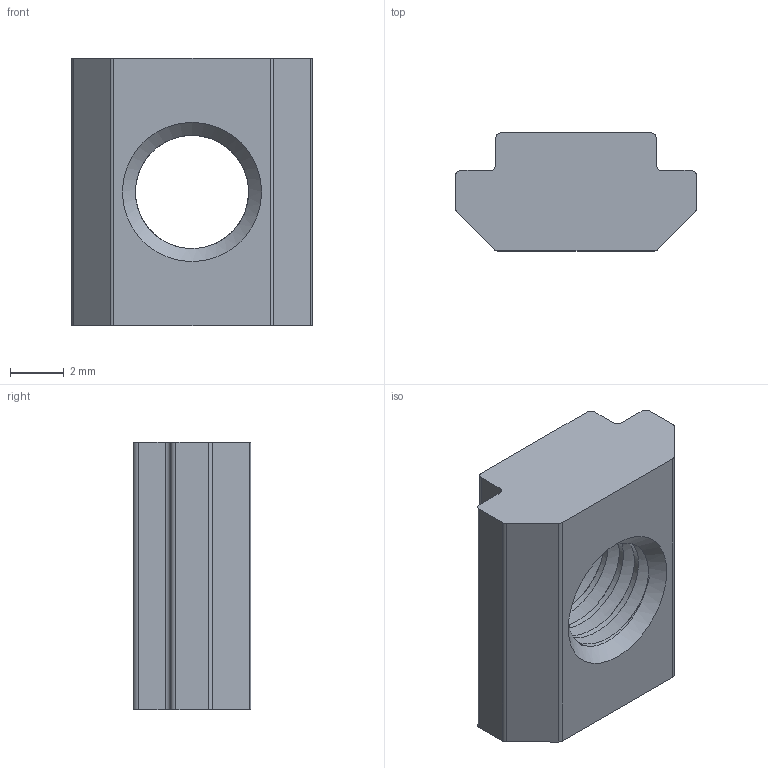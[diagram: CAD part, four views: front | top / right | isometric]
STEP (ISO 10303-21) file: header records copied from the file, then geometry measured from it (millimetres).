
FILE_DESCRIPTION(/* description */ ('STEP AP203'),/* implementation_level */ '2;1');
FILE_NAME(/* name */ '20 Series M5 Slide Nut - TV-Slot - Zinc Plated.step',/* time_stamp */ '2024-08-17T15:07:22+03:00',/* author */ (''),/* organization */ (''),/* preprocessor_version */ 'ST-DEVELOPER v20',/* originating_system */ 'Autodesk Translation Framework v13.14.0.145',/* authorisation */ '');
FILE_SCHEMA (('AUTOMOTIVE_DESIGN { 1 0 10303 214 3 1 1 }'));
Length unit declared in the file: millimetre
Products named in the file (1): 2110.006.002
Bounding box: 9 x 4.4 x 10 mm (x, y, z)
Volume: 257.2 mm3; surface area: 375.9 mm2
Topology: 1 solids, 1 shells, 39 faces, 107 edges, 70 vertices
Faces by surface type: cylinder 21, plane 14, bspline 2, cone 2
Full cylindrical faces by diameter (mm): 4.234 x2, 5.12 x1
Entity records: 2112 total; most frequent: CARTESIAN_POINT 1111, ORIENTED_EDGE 214, DIRECTION 187, EDGE_CURVE 107, VERTEX_POINT 70, AXIS2_PLACEMENT_3D 68, LINE 51, VECTOR 51
